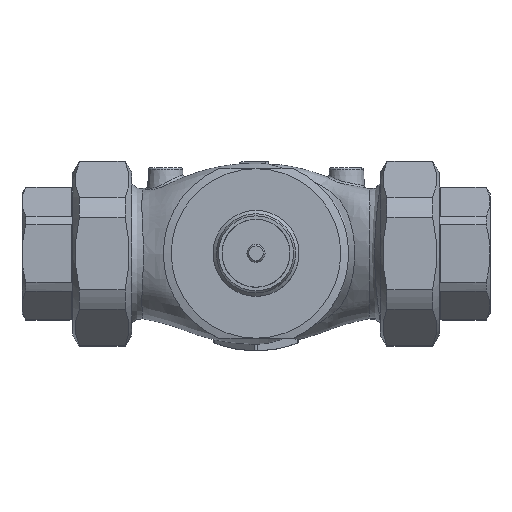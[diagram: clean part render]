
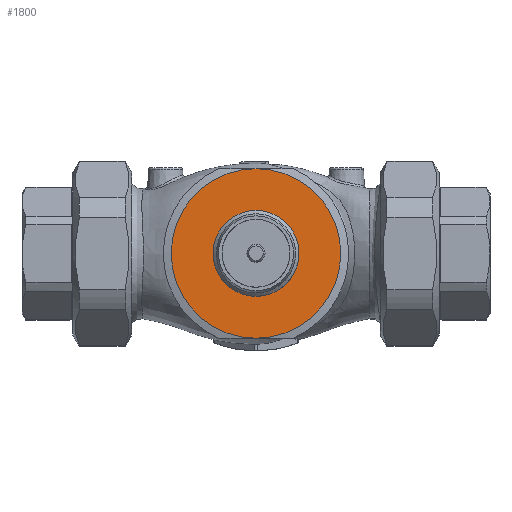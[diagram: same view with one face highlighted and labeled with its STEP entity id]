
A CAD part, top view. The second image highlights one B-rep face of the part: STEP entity #1800.
In plain terms, the highlighted planar face has unit normal (0, 0, 1).
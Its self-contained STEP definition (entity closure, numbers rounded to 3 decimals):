
#1131=PLANE('',#9511);
#1562=FACE_BOUND('',#2961,.T.);
#1563=FACE_BOUND('',#2962,.T.);
#1800=ADVANCED_FACE('',(#1562,#1563),#1131,.T.);
#2961=EDGE_LOOP('',(#4411,#4412));
#2962=EDGE_LOOP('',(#4413));
#3599=CIRCLE('',#9508,37.5);
#3600=CIRCLE('',#9509,37.5);
#3601=CIRCLE('',#9510,19.);
#4411=ORIENTED_EDGE('',*,*,#7773,.T.);
#4412=ORIENTED_EDGE('',*,*,#7774,.T.);
#4413=ORIENTED_EDGE('',*,*,#7775,.T.);
#6857=VERTEX_POINT('',#21628);
#6858=VERTEX_POINT('',#21629);
#6859=VERTEX_POINT('',#21632);
#7773=EDGE_CURVE('',#6857,#6858,#3599,.T.);
#7774=EDGE_CURVE('',#6858,#6857,#3600,.T.);
#7775=EDGE_CURVE('',#6859,#6859,#3601,.T.);
#9508=AXIS2_PLACEMENT_3D('',#21627,#10734,#10735);
#9509=AXIS2_PLACEMENT_3D('',#21630,#10736,#10737);
#9510=AXIS2_PLACEMENT_3D('',#21631,#10738,#10739);
#9511=AXIS2_PLACEMENT_3D('',#21633,#10740,#10741);
#10734=DIRECTION('',(0.,0.,1.));
#10735=DIRECTION('',(-1.,0.,0.));
#10736=DIRECTION('',(0.,0.,1.));
#10737=DIRECTION('',(-1.,0.,0.));
#10738=DIRECTION('',(0.,0.,-1.));
#10739=DIRECTION('',(0.,1.,0.));
#10740=DIRECTION('',(0.,0.,1.));
#10741=DIRECTION('',(-1.,0.,0.));
#21627=CARTESIAN_POINT('',(0.,0.,67.));
#21628=CARTESIAN_POINT('',(0.,37.5,67.));
#21629=CARTESIAN_POINT('',(0.,-37.5,67.));
#21630=CARTESIAN_POINT('',(0.,0.,67.));
#21631=CARTESIAN_POINT('',(0.,0.,67.));
#21632=CARTESIAN_POINT('',(0.,19.,67.));
#21633=CARTESIAN_POINT('',(-25.5,0.,67.));
